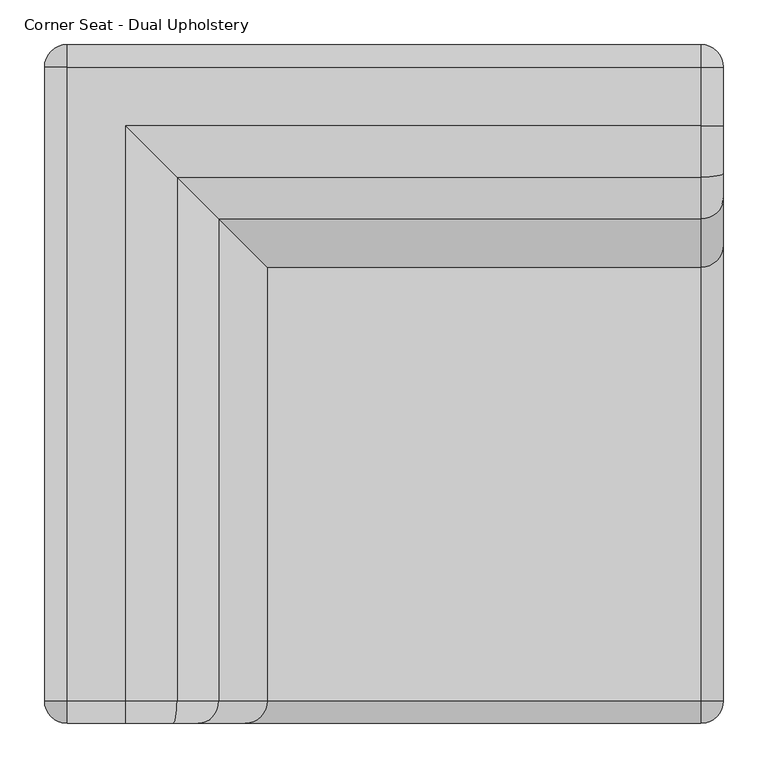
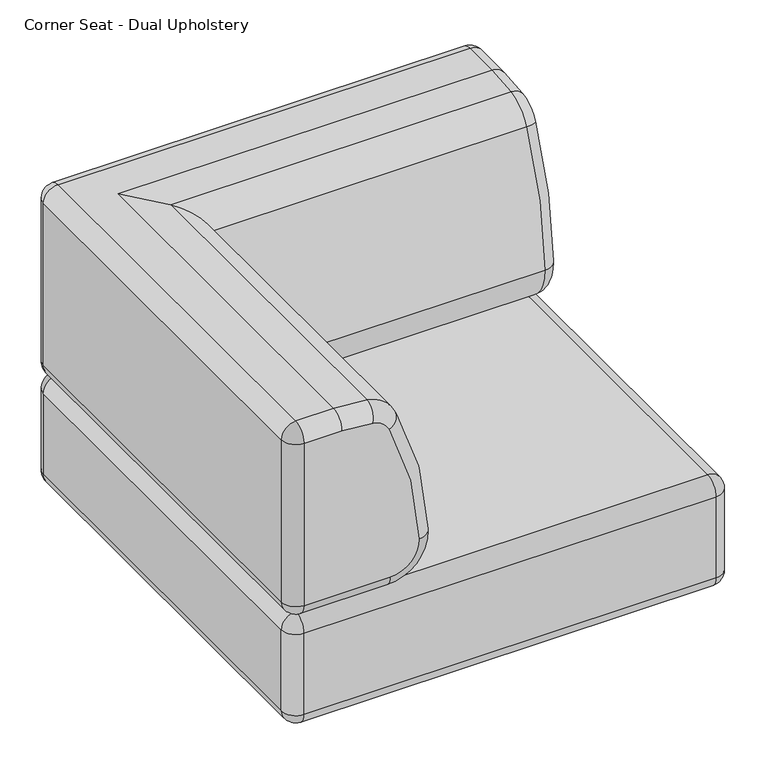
"""IFC4 building model written with IfcOpenShell, lengths in millimetres: furniture geometry, Stylex - Ambi Modular - Seat : Corner Seat - Dual Upholstery."""

from ifc_helpers import new_model, si_unit, point, frame, origin, place, context, project, spatial, circle_curve, ellipse_curve, trimmed, source, transform, mapped, element, save
from ifc_brep_helpers import plane_surface, cylinder_surface, revolved_surface, advanced_brep


def corner_seat_dual_upholstery_8187921d(model_context):
    return source(origin(), model_context, "Body", "AdvancedBrep", [
        advanced_brep(
        [(355.6, 380.7944408, 773.9004878), (-355.5541429, 380.7944408, 773.9004878), (-355.5541429, 355.3485837, 799.3463449), (355.6, 355.3485837, 799.3463449), (-355.5541429, 380.7944408, 477.8149367), (355.6, 380.7944408, 477.8149367), (355.6, 355.3485837, 452.3690796), (-355.5541429, 355.3485837, 452.3690796), (355.6, 289.8044292, 799.3463449), (-290.0099884, 289.8044292, 799.3463449), (-232.2663638, 232.0608046, 794.4525268), (355.6, 232.0608046, 794.4525268), (-185.5691012, 185.3635421, 759.0490898), (355.6, 185.3635421, 759.0490898), (-130.9886677, 130.7831086, 530.5895428), (355.6, 130.7831086, 530.5895428), (-207.1618765, 206.9563173, 452.3690796), (355.6, 206.9563173, 452.3690796), (-207.1618765, -355.8055592, 452.3690796), (-355.5541429, -355.8055592, 452.3690796), (-290.0099884, -355.8055592, 799.3463449), (-232.2663638, -355.8055592, 794.4525268), (-185.5691012, -355.8055592, 759.0490898), (-130.9886677, -355.8055592, 530.5895428), (-355.5541429, -355.8055592, 799.3463449), (-381.0, -355.8055592, 477.8149367), (-381.0, 355.3485837, 477.8149367), (-381.0, 355.3485837, 773.9004878), (-381.0, -355.8055592, 773.9004878), (-207.1618765, -381.2514163, 477.8149367), (-355.5541429, -381.2514163, 477.8149367), (-156.4255783, -381.2514163, 529.9148392), (-208.5640835, -381.2514163, 748.1531073), (-236.5487182, -381.2514163, 769.3696026), (-290.0099884, -381.2514163, 773.9004878), (-355.5541429, -381.2514163, 773.9004878), (381.0458571, 355.3485837, 773.9004878), (381.0458571, 355.3485837, 477.8149367), (381.0458571, 289.8044292, 773.9004878), (381.0458571, 236.343159, 769.3696026), (381.0458571, 208.3585244, 748.1531073), (381.0458571, 156.2200192, 529.9148392), (381.0458571, 206.9563173, 477.8149367)],
        [
            (0, 1),
            (1, 2, circle_curve(frame((-355.5541429, 355.3485837, 773.9004878), z_axis=(1.0, 0.0, 0.0), x_axis=(0.0, -1.0, 0.0)), 25.4458571)),
            (2, 3),
            (3, 0, circle_curve(frame((355.6, 355.3485837, 773.9004878), z_axis=(-1.0, 0.0, 0.0), x_axis=(0.0, -1.0, 0.0)), 25.4458571)),
            (4, 5),
            (5, 6, circle_curve(frame((355.6, 355.3485837, 477.8149367), z_axis=(-1.0, 0.0, 0.0), x_axis=(0.0, -1.0, 0.0)), 25.4458571)),
            (6, 7),
            (7, 4, circle_curve(frame((-355.5541429, 355.3485837, 477.8149367), z_axis=(1.0, 0.0, 0.0), x_axis=(0.0, -1.0, 0.0)), 25.4458571)),
            (0, 5),
            (4, 1),
            (8, 9),
            (9, 10, ellipse_curve(frame((-290.0099884, 289.8044292, 456.2322814), z_axis=(0.7071067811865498, 0.7071067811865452, 0.0), x_axis=(0.7071067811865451, -0.7071067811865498, 0.0)), 485.236562, 343.1140635)),
            (10, 11),
            (11, 8, circle_curve(frame((355.6, 289.8044292, 456.2322814), z_axis=(-1.0, 0.0, 0.0), x_axis=(0.0, -1.0, 0.0)), 343.1140635)),
            (10, 12, ellipse_curve(frame((-242.9529562, 242.7473971, 731.858224), z_axis=(0.7071067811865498, 0.7071067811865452, 0.0), x_axis=(0.7071067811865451, -0.7071067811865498, 0.0)), 89.8025612, 63.5)),
            (12, 13),
            (13, 11, circle_curve(frame((355.6, 242.7473971, 731.858224), z_axis=(-1.0, 0.0, 0.0), x_axis=(0.0, -1.0, 0.0)), 63.5)),
            (12, 14, ellipse_curve(frame((-699.538375, 699.3328159, 515.5089941), z_axis=(0.7071067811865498, 0.7071067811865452, 0.0), x_axis=(0.7071067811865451, -0.7071067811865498, 0.0)), 804.3335037, 568.7496748)),
            (14, 15),
            (15, 13, circle_curve(frame((355.6, 699.3328159, 515.5089941), z_axis=(-1.0, 0.0, 0.0), x_axis=(0.0, -1.0, 0.0)), 568.7496748)),
            (14, 16, ellipse_curve(frame((-207.1618765, 206.9563173, 528.5690796), z_axis=(0.7071067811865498, 0.7071067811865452, 0.0), x_axis=(0.7071067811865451, -0.7071067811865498, 0.0)), 107.7630735, 76.2)),
            (16, 17),
            (17, 15, circle_curve(frame((355.6, 206.9563173, 528.5690796), z_axis=(-1.0, 0.0, 0.0), x_axis=(0.0, -1.0, 0.0)), 76.2)),
            (16, 18),
            (18, 19),
            (19, 7),
            (6, 17),
            (9, 20),
            (20, 21, circle_curve(frame((-290.0099884, -355.8055592, 456.2322814), z_axis=(0.0, 1.0, 0.0), x_axis=(1.0, 0.0, 0.0)), 343.1140635)),
            (21, 10),
            (21, 22, circle_curve(frame((-242.9529562, -355.8055592, 731.858224), z_axis=(0.0, 1.0, 0.0), x_axis=(1.0, 0.0, 0.0)), 63.5)),
            (22, 12),
            (22, 23, circle_curve(frame((-699.538375, -355.8055592, 515.5089941), z_axis=(0.0, 1.0, 0.0), x_axis=(1.0, 0.0, 0.0)), 568.7496748)),
            (23, 14),
            (23, 18, circle_curve(frame((-207.1618765, -355.8055592, 528.5690796), z_axis=(0.0, 1.0, 0.0), x_axis=(1.0, 0.0, 0.0)), 76.2)),
            (8, 3),
            (2, 24),
            (24, 20),
            (25, 26),
            (26, 7, circle_curve(frame((-355.5541429, 355.3485837, 477.8149367), z_axis=(0.0, -1.0, 0.0), x_axis=(0.0, 0.0, 1.0)), 25.4458571)),
            (19, 25, circle_curve(frame((-355.5541429, -355.8055592, 477.8149367), z_axis=(0.0, 1.0, 0.0), x_axis=(0.0, 0.0, 1.0)), 25.4458571)),
            (27, 28),
            (28, 24, circle_curve(frame((-355.5541429, -355.8055592, 773.9004878), z_axis=(0.0, 1.0, 0.0), x_axis=(0.0, 0.0, 1.0)), 25.4458571)),
            (2, 27, circle_curve(frame((-355.5541429, 355.3485837, 773.9004878), z_axis=(0.0, -1.0, 0.0), x_axis=(0.0, 0.0, 1.0)), 25.4458571)),
            (25, 28),
            (27, 26),
            (26, 4, circle_curve(frame((-355.5541429, 355.3485837, 477.8149367), z_axis=(0.0, 0.0, -1.0), x_axis=(0.0, 1.0, 0.0)), 25.4458571)),
            (27, 1, circle_curve(frame((-355.5541429, 355.3485837, 773.9004878), z_axis=(0.0, 0.0, -1.0), x_axis=(0.0, 1.0, 0.0)), 25.4458571)),
            (18, 29, circle_curve(frame((-207.1618765, -355.8055592, 477.8149367), z_axis=(-1.0, 0.0, 0.0), x_axis=(0.0, 0.0, 1.0)), 25.4458571)),
            (29, 30),
            (30, 19, circle_curve(frame((-355.5541429, -355.8055592, 477.8149367), z_axis=(1.0, 0.0, 0.0), x_axis=(0.0, 0.0, 1.0)), 25.4458571)),
            (23, 31, circle_curve(frame((-156.4255783, -355.8055592, 529.9148392), z_axis=(0.026515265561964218, 0.0, -0.9996484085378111), x_axis=(-0.9996484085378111, 0.0, -0.026515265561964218)), 25.4458571)),
            (31, 29, circle_curve(frame((-207.1618765, -381.2514163, 528.5690796), z_axis=(0.0, 1.0, 0.0), x_axis=(0.0, 0.0, -1.0)), 50.7541429)),
            (22, 32, circle_curve(frame((-208.5640835, -355.8055592, 748.1531073), z_axis=(0.4282026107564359, 0.0, -0.9036827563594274), x_axis=(-0.9036827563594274, 0.0, -0.4282026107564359)), 25.4458571)),
            (32, 31, circle_curve(frame((-699.538375, -381.2514163, 515.5089941), z_axis=(0.0, 1.0, 0.0), x_axis=(0.9996484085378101, 0.0, 0.026515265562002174)), 543.3038177)),
            (21, 33, circle_curve(frame((-236.5487182, -355.8055592, 769.3696026), z_axis=(0.9857370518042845, 0.0, -0.16829279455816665), x_axis=(-0.16829279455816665, 0.0, -0.9857370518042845)), 25.4458571)),
            (33, 32, circle_curve(frame((-242.9529562, -381.2514163, 731.858224), z_axis=(0.0, 1.0, 0.0), x_axis=(0.9036827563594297, 0.0, 0.42820261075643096)), 38.0541429)),
            (20, 34, circle_curve(frame((-290.0099884, -355.8055592, 773.9004878), z_axis=(1.0, 0.0, 0.0), x_axis=(0.0, 0.0, -1.0)), 25.4458571)),
            (34, 33, circle_curve(frame((-290.0099884, -381.2514163, 456.2322814), z_axis=(0.0, 1.0, 0.0), x_axis=(0.1682927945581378, 0.0, 0.9857370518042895)), 317.6682064)),
            (24, 35, circle_curve(frame((-355.5541429, -355.8055592, 773.9004878), z_axis=(1.0, 0.0, 0.0), x_axis=(0.0, 0.0, -1.0)), 25.4458571)),
            (35, 34),
            (35, 30),
            (30, 25, circle_curve(frame((-355.5541429, -355.8055592, 477.8149367), z_axis=(0.0, 0.0, -1.0), x_axis=(0.0, -1.0, 0.0)), 25.4458571)),
            (35, 28, circle_curve(frame((-355.5541429, -355.8055592, 773.9004878), z_axis=(0.0, 0.0, -1.0), x_axis=(0.0, -1.0, 0.0)), 25.4458571)),
            (36, 37),
            (37, 5, circle_curve(frame((355.6, 355.3485837, 477.8149367), z_axis=(0.0, 0.0, 1.0), x_axis=(0.0, 1.0, 0.0)), 25.4458571)),
            (0, 36, circle_curve(frame((355.6, 355.3485837, 773.9004878), z_axis=(0.0, 0.0, -1.0), x_axis=(0.0, 1.0, 0.0)), 25.4458571)),
            (37, 6, circle_curve(frame((355.6, 355.3485837, 477.8149367), z_axis=(0.0, 1.0, 0.0), x_axis=(-1.0, 0.0, 0.0)), 25.4458571)),
            (3, 36, circle_curve(frame((355.6, 355.3485837, 773.9004878), z_axis=(0.0, 1.0, 0.0), x_axis=(-1.0, 0.0, 0.0)), 25.4458571)),
            (8, 38, circle_curve(frame((355.6, 289.8044292, 773.9004878), z_axis=(0.0, 1.0, 0.0), x_axis=(0.0, 0.0, 1.0)), 25.4458571)),
            (38, 36),
            (38, 39, circle_curve(frame((381.0458571, 289.8044292, 456.2322814), z_axis=(1.0, 0.0, 0.0), x_axis=(0.0, 0.0, 1.0)), 317.6682064)),
            (39, 40, circle_curve(frame((381.0458571, 242.7473971, 731.858224), z_axis=(1.0, 0.0, 0.0), x_axis=(0.0, -0.16829279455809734, 0.9857370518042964)), 38.0541429)),
            (40, 41, circle_curve(frame((381.0458571, 699.3328159, 515.5089941), z_axis=(1.0, 0.0, 0.0), x_axis=(0.0, -0.9036827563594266, 0.42820261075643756)), 543.3038177)),
            (41, 42, circle_curve(frame((381.0458571, 206.9563173, 528.5690796), z_axis=(1.0, 0.0, 0.0), x_axis=(0.0, -0.9996484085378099, 0.02651526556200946)), 50.7541429)),
            (42, 37),
            (11, 39, circle_curve(frame((355.6, 236.343159, 769.3696026), z_axis=(0.0, 0.9857370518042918, 0.16829279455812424), x_axis=(0.0, -0.16829279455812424, 0.9857370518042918)), 25.4458571)),
            (13, 40, circle_curve(frame((355.6, 208.3585244, 748.1531073), z_axis=(0.0, 0.42820261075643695, 0.9036827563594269), x_axis=(0.0, -0.9036827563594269, 0.42820261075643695)), 25.4458571)),
            (15, 41, circle_curve(frame((355.6, 156.2200192, 529.9148392), z_axis=(0.0, 0.026515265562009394, 0.99964840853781), x_axis=(0.0, -0.99964840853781, 0.026515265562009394)), 25.4458571)),
            (17, 42, circle_curve(frame((355.6, 206.9563173, 477.8149367), z_axis=(0.0, -1.0, 0.0), x_axis=(0.0, 0.0, -1.0)), 25.4458571)),
        ],
        [
            cylinder_surface(frame((355.6, 355.3485837, 773.9004878), z_axis=(-1.0, 0.0, 0.0), x_axis=(0.0, -1.0, 0.0)), 25.4458571),
            cylinder_surface(frame((355.6, 355.3485837, 477.8149367), z_axis=(-1.0, 0.0, 0.0), x_axis=(0.0, -1.0, 0.0)), 25.4458571),
            plane_surface(frame((-355.5541429, 380.7944408, 773.9004878), z_axis=(0.0, 1.0, 0.0), x_axis=(1.0, 0.0, 0.0))),
            cylinder_surface(frame((355.6, 289.8044292, 456.2322814), z_axis=(1.0, 0.0, 0.0), x_axis=(0.0, -1.0, 0.0)), 343.1140635),
            cylinder_surface(frame((355.6, 242.7473971, 731.858224), z_axis=(1.0, 0.0, 0.0), x_axis=(0.0, -1.0, 0.0)), 63.5),
            cylinder_surface(frame((355.6, 699.3328159, 515.5089941), z_axis=(1.0, 0.0, 0.0), x_axis=(0.0, -1.0, 0.0)), 568.7496748),
            cylinder_surface(frame((355.6, 206.9563173, 528.5690796), z_axis=(1.0, 0.0, 0.0), x_axis=(0.0, -1.0, 0.0)), 76.2),
            plane_surface(frame((355.6, 206.9563173, 452.3690796), z_axis=(0.0, 0.0, -1.0), x_axis=(-1.0, 0.0, 0.0))),
            cylinder_surface(frame((-290.0099884, 380.7944408, 456.2322814), z_axis=(0.0, 1.0, 0.0), x_axis=(1.0, 0.0, 0.0)), 343.1140635),
            cylinder_surface(frame((-242.9529562, 380.7944408, 731.858224), z_axis=(0.0, 1.0, 0.0), x_axis=(1.0, 0.0, 0.0)), 63.5),
            cylinder_surface(frame((-699.538375, 380.7944408, 515.5089941), z_axis=(0.0, 1.0, 0.0), x_axis=(1.0, 0.0, 0.0)), 568.7496748),
            cylinder_surface(frame((-207.1618765, 380.7944408, 528.5690796), z_axis=(0.0, 1.0, 0.0), x_axis=(1.0, 0.0, 0.0)), 76.2),
            plane_surface(frame((355.6, 355.3485837, 799.3463449), z_axis=(0.0, 0.0, 1.0), x_axis=(-1.0, 0.0, 0.0))),
            cylinder_surface(frame((-355.5541429, 355.3485837, 477.8149367), z_axis=(0.0, -1.0, 0.0), x_axis=(0.0, 0.0, 1.0)), 25.4458571),
            cylinder_surface(frame((-355.5541429, 355.3485837, 773.9004878), z_axis=(0.0, -1.0, 0.0), x_axis=(0.0, 0.0, 1.0)), 25.4458571),
            plane_surface(frame((-381.0, -355.8055592, 773.9004878), z_axis=(-1.0, 0.0, 0.0), x_axis=(0.0, 1.0, 0.0))),
            revolved_surface(trimmed(ellipse_curve(frame((-355.5541429, 355.3485837, 477.8149367), z_axis=(-1.0, 0.0, 0.0), x_axis=(0.0, -1.0, 0.0)), 25.4458571, 25.4458571), [point((-355.5541429, 380.7944408, 477.8149367))], [point((-355.5541429, 355.3485837, 452.3690796))], True, "CARTESIAN"), (-355.5541429, 355.3485837, 799.3463449), (0.0, 0.0, -1.0)),
            cylinder_surface(frame((-355.5541429, 355.3485837, 799.3463449), z_axis=(0.0, 0.0, -1.0), x_axis=(0.0, 1.0, 0.0)), 25.4458571),
            revolved_surface(trimmed(ellipse_curve(frame((-355.5541429, 355.3485837, 773.9004878), z_axis=(-1.0, 0.0, 0.0), x_axis=(0.0, -1.0, 0.0)), 25.4458571, 25.4458571), [point((-355.5541429, 355.3485837, 799.3463449))], [point((-355.5541429, 380.7944408, 773.9004878))], True, "CARTESIAN"), (-355.5541429, 355.3485837, 799.3463449), (0.0, 0.0, -1.0)),
            cylinder_surface(frame((-355.5541429, -355.8055592, 477.8149367), z_axis=(-1.0, 0.0, 0.0), x_axis=(0.0, 0.0, 1.0)), 25.4458571),
            revolved_surface(trimmed(ellipse_curve(frame((-207.1618765, -355.8055592, 477.8149367), z_axis=(-1.0, 0.0, 0.0), x_axis=(0.0, 0.0, 1.0)), 25.4458571, 25.4458571), [point((-207.1618765, -355.8055592, 452.3690796))], [point((-207.1618765, -381.2514163, 477.8149367))], True, "CARTESIAN"), (-207.1618765, -355.8055592, 528.5690796), (0.0, -1.0, 0.0)),
            revolved_surface(trimmed(ellipse_curve(frame((-156.4255783, -355.8055592, 529.9148392), z_axis=(0.02651526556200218, 0.0, -0.9996484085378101), x_axis=(-0.9996484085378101, 0.0, -0.02651526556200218)), 25.4458571, 25.4458571), [point((-130.9886677, -355.8055592, 530.5895428))], [point((-156.4255783, -381.2514163, 529.9148392))], True, "CARTESIAN"), (-699.538375, -355.8055592, 515.5089941), (0.0, -1.0, 0.0)),
            revolved_surface(trimmed(ellipse_curve(frame((-208.5640835, -355.8055592, 748.1531073), z_axis=(0.42820261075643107, 0.0, -0.9036827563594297), x_axis=(-0.9036827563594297, 0.0, -0.42820261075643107)), 25.4458571, 25.4458571), [point((-185.5691012, -355.8055592, 759.0490898))], [point((-208.5640835, -381.2514163, 748.1531073))], True, "CARTESIAN"), (-242.9529562, -355.8055592, 731.858224), (0.0, -1.0, 0.0)),
            revolved_surface(trimmed(ellipse_curve(frame((-236.5487182, -355.8055592, 769.3696026), z_axis=(0.9857370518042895, 0.0, -0.16829279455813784), x_axis=(-0.16829279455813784, 0.0, -0.9857370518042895)), 25.4458571, 25.4458571), [point((-232.2663638, -355.8055592, 794.4525268))], [point((-236.5487182, -381.2514163, 769.3696026))], True, "CARTESIAN"), (-290.0099884, -355.8055592, 456.2322814), (0.0, -1.0, 0.0)),
            cylinder_surface(frame((-290.0099884, -355.8055592, 773.9004878), z_axis=(1.0, 0.0, 0.0), x_axis=(0.0, 0.0, -1.0)), 25.4458571),
            plane_surface(frame((-242.9529562, -381.2514163, 769.9123669), z_axis=(0.0, -1.0, 0.0), x_axis=(-1.0, 0.0, 0.0))),
            revolved_surface(trimmed(ellipse_curve(frame((-355.5541429, -355.8055592, 477.8149367), z_axis=(-1.0, 0.0, 0.0), x_axis=(0.0, 1.0, 0.0)), 25.4458571, 25.4458571), [point((-355.5541429, -355.8055592, 452.3690796))], [point((-355.5541429, -381.2514163, 477.8149367))], True, "CARTESIAN"), (-355.5541429, -355.8055592, 799.3463449), (0.0, 0.0, 1.0)),
            cylinder_surface(frame((-355.5541429, -355.8055592, 799.3463449), z_axis=(0.0, 0.0, 1.0), x_axis=(0.0, -1.0, 0.0)), 25.4458571),
            revolved_surface(trimmed(ellipse_curve(frame((-355.5541429, -355.8055592, 773.9004878), z_axis=(-1.0, 0.0, 0.0), x_axis=(0.0, 1.0, 0.0)), 25.4458571, 25.4458571), [point((-355.5541429, -381.2514163, 773.9004878))], [point((-355.5541429, -355.8055592, 799.3463449))], True, "CARTESIAN"), (-355.5541429, -355.8055592, 799.3463449), (0.0, 0.0, 1.0)),
            cylinder_surface(frame((355.6, 355.3485837, 799.3463449), z_axis=(0.0, 0.0, -1.0), x_axis=(0.0, 1.0, 0.0)), 25.4458571),
            revolved_surface(trimmed(ellipse_curve(frame((355.6, 355.3485837, 477.8149367), z_axis=(-1.0, 0.0, 0.0), x_axis=(0.0, -1.0, 0.0)), 25.4458571, 25.4458571), [point((355.6, 380.7944408, 477.8149367))], [point((355.6, 355.3485837, 452.3690796))], True, "CARTESIAN"), (355.6, 355.3485837, 799.3463449), (0.0, 0.0, -1.0)),
            revolved_surface(trimmed(ellipse_curve(frame((355.6, 355.3485837, 773.9004878), z_axis=(-1.0, 0.0, 0.0), x_axis=(0.0, -1.0, 0.0)), 25.4458571, 25.4458571), [point((355.6, 355.3485837, 799.3463449))], [point((355.6, 380.7944408, 773.9004878))], True, "CARTESIAN"), (355.6, 355.3485837, 799.3463449), (0.0, 0.0, -1.0)),
            cylinder_surface(frame((355.6, 355.3485837, 773.9004878), z_axis=(0.0, 1.0, 0.0), x_axis=(0.0, 0.0, 1.0)), 25.4458571),
            plane_surface(frame((381.0458571, 355.3485837, 773.9004878), z_axis=(1.0, 0.0, 0.0), x_axis=(0.0, -1.0, 0.0))),
            revolved_surface(trimmed(ellipse_curve(frame((355.6, 289.8044292, 773.9004878), z_axis=(0.0, 1.0, 0.0), x_axis=(0.0, 0.0, 1.0)), 25.4458571, 25.4458571), [point((355.6, 289.8044292, 799.3463449))], [point((381.0458571, 289.8044292, 773.9004878))], True, "CARTESIAN"), (355.6, 289.8044292, 456.2322814), (1.0, 0.0, 0.0)),
            revolved_surface(trimmed(ellipse_curve(frame((355.6, 236.343159, 769.3696026), z_axis=(0.0, 0.9857370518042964, 0.16829279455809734), x_axis=(0.0, -0.16829279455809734, 0.9857370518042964)), 25.4458571, 25.4458571), [point((355.6, 232.0608046, 794.4525268))], [point((381.0458571, 236.343159, 769.3696026))], True, "CARTESIAN"), (355.6, 242.7473971, 731.858224), (1.0, 0.0, 0.0)),
            revolved_surface(trimmed(ellipse_curve(frame((355.6, 208.3585244, 748.1531073), z_axis=(0.0, 0.4282026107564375, 0.9036827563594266), x_axis=(0.0, -0.9036827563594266, 0.4282026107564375)), 25.4458571, 25.4458571), [point((355.6, 185.3635421, 759.0490898))], [point((381.0458571, 208.3585244, 748.1531073))], True, "CARTESIAN"), (355.6, 699.3328159, 515.5089941), (1.0, 0.0, 0.0)),
            revolved_surface(trimmed(ellipse_curve(frame((355.6, 156.2200192, 529.9148392), z_axis=(0.0, 0.026515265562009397, 0.9996484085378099), x_axis=(0.0, -0.9996484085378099, 0.026515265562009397)), 25.4458571, 25.4458571), [point((355.6, 130.7831086, 530.5895428))], [point((381.0458571, 156.2200192, 529.9148392))], True, "CARTESIAN"), (355.6, 206.9563173, 528.5690796), (1.0, 0.0, 0.0)),
            cylinder_surface(frame((355.6, 206.9563173, 477.8149367), z_axis=(0.0, -1.0, 0.0), x_axis=(0.0, 0.0, -1.0)), 25.4458571),
        ],
        [
            (0, [[1, 2, 3, 4]]),
            (1, [[5, 6, 7, 8]]),
            (2, [[-1, 9, -5, 10]]),
            (3, [[11, 12, 13, 14]]),
            (4, [[-13, 15, 16, 17]]),
            (5, [[-16, 18, 19, 20]]),
            (6, [[-19, 21, 22, 23]]),
            (7, [[-22, 24, 25, 26, -7, 27]]),
            (8, [[-12, 28, 29, 30]]),
            (9, [[-15, -30, 31, 32]]),
            (10, [[-18, -32, 33, 34]]),
            (11, [[-21, -34, 35, -24]]),
            (12, [[-11, 36, -3, 37, 38, -28]]),
            (13, [[39, 40, -26, 41]]),
            (14, [[42, 43, -37, 44]]),
            (15, [[-39, 45, -42, 46]]),
            (16, [[47, -8, -40]]),
            (17, [[-47, -46, 48, -10]]),
            (18, [[-48, -44, -2]]),
            (19, [[49, 50, 51, -25]]),
            (20, [[-49, -35, 52, 53]]),
            (21, [[-52, -33, 54, 55]]),
            (22, [[-54, -31, 56, 57]]),
            (23, [[-56, -29, 58, 59]]),
            (24, [[-58, -38, 60, 61]]),
            (25, [[-50, -53, -55, -57, -59, -61, 62]]),
            (26, [[63, -41, -51]]),
            (27, [[-63, -62, 64, -45]]),
            (28, [[-64, -60, -43]]),
            (29, [[65, 66, -9, 67]]),
            (30, [[-66, 68, -6]]),
            (31, [[-67, -4, 69]]),
            (32, [[70, 71, -69, -36]]),
            (33, [[-71, 72, 73, 74, 75, 76, -65]]),
            (34, [[-70, -14, 77, -72]]),
            (35, [[-73, -77, -17, 78]]),
            (36, [[-74, -78, -20, 79]]),
            (37, [[-75, -79, -23, 80]]),
            (38, [[-76, -80, -27, -68]]),
        ],
    ),
        advanced_brep(
        [(355.6, -381.2055592, 279.4), (355.6, -381.2055592, 426.9232225), (-355.6, -381.2055592, 426.9232225), (-355.6, -381.2055592, 279.4), (355.6, -355.8055592, 452.3232225), (355.6, 355.3944408, 452.3232225), (-355.6, 355.3944408, 452.3232225), (-355.6, -355.8055592, 452.3232225), (355.6, 380.7944408, 426.9232225), (355.6, 380.7944408, 279.4), (-355.6, 380.7944408, 279.4), (-355.6, 380.7944408, 426.9232225), (355.6, 355.3944408, 254.0), (355.6, -355.8055592, 254.0), (-355.6, -355.8055592, 254.0), (-355.6, 355.3944408, 254.0), (-381.0, 355.3944408, 426.9232225), (-381.0, -355.8055592, 426.9232225), (381.0, -355.8055592, 426.9232225), (381.0, 355.3944408, 426.9232225), (-381.0, 355.3944408, 279.4), (381.0, 355.3944408, 279.4), (-381.0, -355.8055592, 279.4), (381.0, -355.8055592, 279.4)],
        [
            (0, 1),
            (1, 2),
            (2, 3),
            (3, 0),
            (4, 5),
            (5, 6),
            (6, 7),
            (7, 4),
            (8, 9),
            (9, 10),
            (10, 11),
            (11, 8),
            (12, 13),
            (13, 14),
            (14, 15),
            (15, 12),
            (6, 16, circle_curve(frame((-355.6, 355.3944408, 426.9232225), z_axis=(0.0, -1.0, 0.0), x_axis=(0.0, 0.0, 1.0)), 25.4)),
            (16, 17),
            (17, 7, circle_curve(frame((-355.6, -355.8055592, 426.9232225), z_axis=(0.0, 1.0, 0.0), x_axis=(0.0, 0.0, 1.0)), 25.4)),
            (4, 18, circle_curve(frame((355.6, -355.8055592, 426.9232225), z_axis=(0.0, 1.0, 0.0), x_axis=(0.0, 0.0, 1.0)), 25.4)),
            (18, 19),
            (19, 5, circle_curve(frame((355.6, 355.3944408, 426.9232225), z_axis=(0.0, -1.0, 0.0), x_axis=(0.0, 0.0, 1.0)), 25.4)),
            (10, 20, circle_curve(frame((-355.6, 355.3944408, 279.4), z_axis=(0.0, 0.0, 1.0), x_axis=(0.0, 1.0, 0.0)), 25.4)),
            (20, 16),
            (16, 11, circle_curve(frame((-355.6, 355.3944408, 426.9232225), z_axis=(0.0, 0.0, -1.0), x_axis=(0.0, 1.0, 0.0)), 25.4)),
            (8, 19, circle_curve(frame((355.6, 355.3944408, 426.9232225), z_axis=(0.0, 0.0, -1.0), x_axis=(0.0, 1.0, 0.0)), 25.4)),
            (19, 21),
            (21, 9, circle_curve(frame((355.6, 355.3944408, 279.4), z_axis=(0.0, 0.0, 1.0), x_axis=(0.0, 1.0, 0.0)), 25.4)),
            (14, 22, circle_curve(frame((-355.6, -355.8055592, 279.4), z_axis=(0.0, 1.0, 0.0), x_axis=(0.0, 0.0, -1.0)), 25.4)),
            (22, 20),
            (20, 15, circle_curve(frame((-355.6, 355.3944408, 279.4), z_axis=(0.0, -1.0, 0.0), x_axis=(0.0, 0.0, -1.0)), 25.4)),
            (12, 21, circle_curve(frame((355.6, 355.3944408, 279.4), z_axis=(0.0, -1.0, 0.0), x_axis=(0.0, 0.0, -1.0)), 25.4)),
            (21, 23),
            (23, 13, circle_curve(frame((355.6, -355.8055592, 279.4), z_axis=(0.0, 1.0, 0.0), x_axis=(0.0, 0.0, -1.0)), 25.4)),
            (2, 17, circle_curve(frame((-355.6, -355.8055592, 426.9232225), z_axis=(0.0, 0.0, -1.0), x_axis=(0.0, -1.0, 0.0)), 25.4)),
            (17, 22),
            (22, 3, circle_curve(frame((-355.6, -355.8055592, 279.4), z_axis=(0.0, 0.0, 1.0), x_axis=(0.0, -1.0, 0.0)), 25.4)),
            (0, 23, circle_curve(frame((355.6, -355.8055592, 279.4), z_axis=(0.0, 0.0, 1.0), x_axis=(0.0, -1.0, 0.0)), 25.4)),
            (23, 18),
            (18, 1, circle_curve(frame((355.6, -355.8055592, 426.9232225), z_axis=(0.0, 0.0, -1.0), x_axis=(0.0, -1.0, 0.0)), 25.4)),
            (1, 4, circle_curve(frame((355.6, -355.8055592, 426.9232225), z_axis=(-1.0, 0.0, 0.0), x_axis=(0.0, 0.0, 1.0)), 25.4)),
            (7, 2, circle_curve(frame((-355.6, -355.8055592, 426.9232225), z_axis=(1.0, 0.0, 0.0), x_axis=(0.0, 0.0, 1.0)), 25.4)),
            (3, 14, circle_curve(frame((-355.6, -355.8055592, 279.4), z_axis=(1.0, 0.0, 0.0), x_axis=(0.0, 0.0, -1.0)), 25.4)),
            (13, 0, circle_curve(frame((355.6, -355.8055592, 279.4), z_axis=(-1.0, 0.0, 0.0), x_axis=(0.0, 0.0, -1.0)), 25.4)),
            (9, 12, circle_curve(frame((355.6, 355.3944408, 279.4), z_axis=(-1.0, 0.0, 0.0), x_axis=(0.0, 0.0, -1.0)), 25.4)),
            (15, 10, circle_curve(frame((-355.6, 355.3944408, 279.4), z_axis=(1.0, 0.0, 0.0), x_axis=(0.0, 0.0, -1.0)), 25.4)),
            (6, 11, circle_curve(frame((-355.6, 355.3944408, 426.9232225), z_axis=(-1.0, 0.0, 0.0), x_axis=(0.0, 0.0, 1.0)), 25.4)),
            (8, 5, circle_curve(frame((355.6, 355.3944408, 426.9232225), z_axis=(1.0, 0.0, 0.0), x_axis=(0.0, 0.0, 1.0)), 25.4)),
        ],
        [
            plane_surface(frame((355.6, -381.2055592, 254.0), z_axis=(0.0, -1.0, 0.0), x_axis=(0.0, 0.0, 1.0))),
            plane_surface(frame((355.6, -381.2055592, 452.3232225), z_axis=(0.0, 0.0, 1.0), x_axis=(0.0, 1.0, 0.0))),
            plane_surface(frame((355.6, 380.7944408, 452.3232225), z_axis=(0.0, 1.0, 0.0), x_axis=(0.0, 0.0, -1.0))),
            plane_surface(frame((355.6, 380.7944408, 254.0), z_axis=(0.0, 0.0, -1.0), x_axis=(0.0, -1.0, 0.0))),
            cylinder_surface(frame((-355.6, -381.2055592, 426.9232225), z_axis=(0.0, -1.0, 0.0), x_axis=(0.0, 0.0, 1.0)), 25.4),
            cylinder_surface(frame((355.6, -381.2055592, 426.9232225), z_axis=(0.0, -1.0, 0.0), x_axis=(0.0, 0.0, 1.0)), 25.4),
            cylinder_surface(frame((-355.6, 355.3944408, 452.3232225), z_axis=(0.0, 0.0, 1.0), x_axis=(0.0, 1.0, 0.0)), 25.4),
            cylinder_surface(frame((355.6, 355.3944408, 452.3232225), z_axis=(0.0, 0.0, 1.0), x_axis=(0.0, 1.0, 0.0)), 25.4),
            cylinder_surface(frame((-355.6, 380.7944408, 279.4), z_axis=(0.0, 1.0, 0.0), x_axis=(0.0, 0.0, -1.0)), 25.4),
            cylinder_surface(frame((355.6, 380.7944408, 279.4), z_axis=(0.0, 1.0, 0.0), x_axis=(0.0, 0.0, -1.0)), 25.4),
            cylinder_surface(frame((-355.6, -355.8055592, 254.0), z_axis=(0.0, 0.0, -1.0), x_axis=(0.0, -1.0, 0.0)), 25.4),
            cylinder_surface(frame((355.6, -355.8055592, 254.0), z_axis=(0.0, 0.0, -1.0), x_axis=(0.0, -1.0, 0.0)), 25.4),
            plane_surface(frame((381.0, 355.3944408, 426.9232225), z_axis=(1.0, 0.0, 0.0), x_axis=(0.0, 0.0, 1.0))),
            plane_surface(frame((-381.0, 355.3944408, 426.9232225), z_axis=(-1.0, 0.0, 0.0), x_axis=(0.0, 0.0, -1.0))),
            cylinder_surface(frame((-381.0, -355.8055592, 426.9232225), z_axis=(-1.0, 0.0, 0.0), x_axis=(0.0, 0.0, 1.0)), 25.4),
            revolved_surface(trimmed(ellipse_curve(frame((355.6, -355.8055592, 426.9232225), z_axis=(0.0, -1.0, 0.0), x_axis=(0.0, 0.0, -1.0)), 25.4, 25.4), [point((381.0, -355.8055592, 426.9232225))], [point((355.6, -355.8055592, 452.3232225))], True, "CARTESIAN"), (-381.0, -355.8055592, 426.9232225), (-1.0, 0.0, 0.0)),
            revolved_surface(trimmed(ellipse_curve(frame((-355.6, -355.8055592, 426.9232225), z_axis=(0.0, -1.0, 0.0), x_axis=(0.0, 0.0, -1.0)), 25.4, 25.4), [point((-355.6, -355.8055592, 452.3232225))], [point((-381.0, -355.8055592, 426.9232225))], True, "CARTESIAN"), (-381.0, -355.8055592, 426.9232225), (-1.0, 0.0, 0.0)),
            cylinder_surface(frame((381.0, -355.8055592, 279.4), z_axis=(1.0, 0.0, 0.0), x_axis=(0.0, 0.0, -1.0)), 25.4),
            revolved_surface(trimmed(ellipse_curve(frame((-355.6, -355.8055592, 279.4), z_axis=(0.0, -1.0, 0.0), x_axis=(0.0, 0.0, 1.0)), 25.4, 25.4), [point((-381.0, -355.8055592, 279.4))], [point((-355.6, -355.8055592, 254.0))], True, "CARTESIAN"), (381.0, -355.8055592, 279.4), (1.0, 0.0, 0.0)),
            revolved_surface(trimmed(ellipse_curve(frame((355.6, -355.8055592, 279.4), z_axis=(0.0, -1.0, 0.0), x_axis=(0.0, 0.0, 1.0)), 25.4, 25.4), [point((355.6, -355.8055592, 254.0))], [point((381.0, -355.8055592, 279.4))], True, "CARTESIAN"), (381.0, -355.8055592, 279.4), (1.0, 0.0, 0.0)),
            cylinder_surface(frame((381.0, 355.3944408, 279.4), z_axis=(-1.0, 0.0, 0.0), x_axis=(0.0, 0.0, -1.0)), 25.4),
            revolved_surface(trimmed(ellipse_curve(frame((355.6, 355.3944408, 279.4), z_axis=(0.0, 1.0, 0.0), x_axis=(0.0, 0.0, 1.0)), 25.4, 25.4), [point((381.0, 355.3944408, 279.4))], [point((355.6, 355.3944408, 254.0))], True, "CARTESIAN"), (381.0, 355.3944408, 279.4), (-1.0, 0.0, 0.0)),
            revolved_surface(trimmed(ellipse_curve(frame((-355.6, 355.3944408, 279.4), z_axis=(0.0, 1.0, 0.0), x_axis=(0.0, 0.0, 1.0)), 25.4, 25.4), [point((-355.6, 355.3944408, 254.0))], [point((-381.0, 355.3944408, 279.4))], True, "CARTESIAN"), (381.0, 355.3944408, 279.4), (-1.0, 0.0, 0.0)),
            revolved_surface(trimmed(ellipse_curve(frame((-355.6, 355.3944408, 426.9232225), z_axis=(0.0, 1.0, 0.0), x_axis=(0.0, 0.0, -1.0)), 25.4, 25.4), [point((-381.0, 355.3944408, 426.9232225))], [point((-355.6, 355.3944408, 452.3232225))], True, "CARTESIAN"), (381.0, 355.3944408, 426.9232225), (1.0, 0.0, 0.0)),
            revolved_surface(trimmed(ellipse_curve(frame((355.6, 355.3944408, 426.9232225), z_axis=(0.0, 1.0, 0.0), x_axis=(0.0, 0.0, -1.0)), 25.4, 25.4), [point((355.6, 355.3944408, 452.3232225))], [point((381.0, 355.3944408, 426.9232225))], True, "CARTESIAN"), (381.0, 355.3944408, 426.9232225), (1.0, 0.0, 0.0)),
            cylinder_surface(frame((381.0, 355.3944408, 426.9232225), z_axis=(1.0, 0.0, 0.0), x_axis=(0.0, 0.0, 1.0)), 25.4),
        ],
        [
            (0, [[1, 2, 3, 4]]),
            (1, [[5, 6, 7, 8]]),
            (2, [[9, 10, 11, 12]]),
            (3, [[13, 14, 15, 16]]),
            (4, [[-7, 17, 18, 19]]),
            (5, [[-5, 20, 21, 22]]),
            (6, [[-11, 23, 24, 25]]),
            (7, [[-9, 26, 27, 28]]),
            (8, [[-15, 29, 30, 31]]),
            (9, [[-13, 32, 33, 34]]),
            (10, [[-3, 35, 36, 37]]),
            (11, [[-1, 38, 39, 40]]),
            (12, [[-21, -39, -33, -27]]),
            (13, [[-18, -24, -30, -36]]),
            (14, [[41, -8, 42, -2]]),
            (15, [[-41, -40, -20]]),
            (16, [[-42, -19, -35]]),
            (17, [[43, -14, 44, -4]]),
            (18, [[-43, -37, -29]]),
            (19, [[-44, -34, -38]]),
            (20, [[45, -16, 46, -10]]),
            (21, [[-45, -28, -32]]),
            (22, [[-46, -31, -23]]),
            (23, [[47, -25, -17]]),
            (24, [[48, -22, -26]]),
            (25, [[-47, -6, -48, -12]]),
        ],
    ),
    ])


if __name__ == "__main__":
    model = new_model("IFC4")
    model_context = context("Model", 3, world=origin())
    ifc_project = project(units=[si_unit("LENGTHUNIT", "METRE", prefix="MILLI")], contexts=[model_context])
    site = spatial("IfcSite", under=ifc_project)
    building = spatial("IfcBuilding", under=site)
    placement = place(None, origin())
    corner_seat_dual_upholstery_shape = corner_seat_dual_upholstery_8187921d(model_context)
    element("IfcFurniture", 1, ObjectType="Stylex - Ambi Modular - Seat : Corner Seat - Dual Upholstery", at=placement, inside=building, context=model_context, shape_type="MappedRepresentation", body=[
        mapped(corner_seat_dual_upholstery_shape, transform((0.0, 0.0, 0.0), x_axis=(1.0, 0.0, 0.0), y_axis=(0.0, 1.0, 0.0), z_axis=(0.0, 0.0, 1.0))),
    ])
    save(model, "model.ifc")
